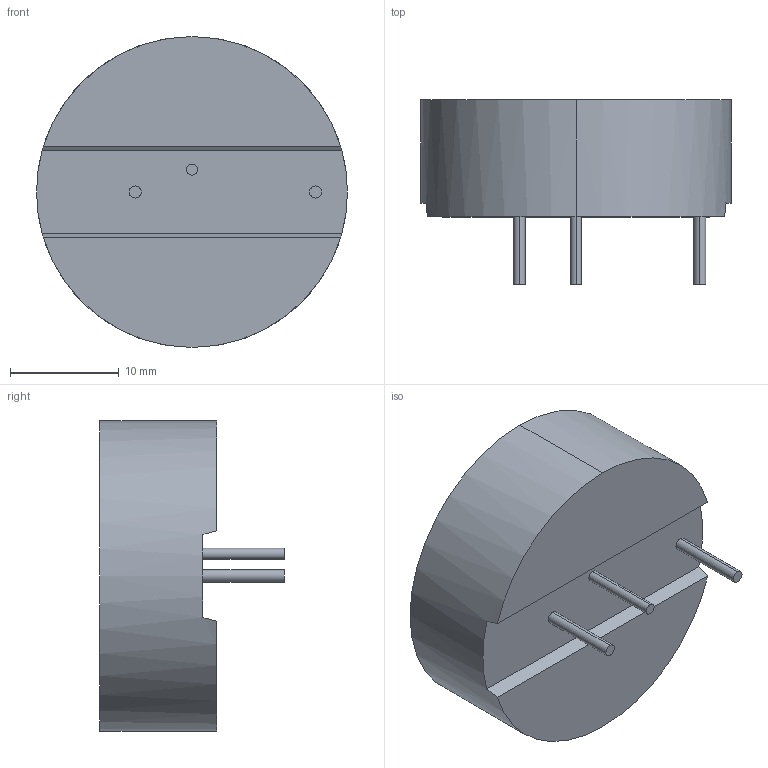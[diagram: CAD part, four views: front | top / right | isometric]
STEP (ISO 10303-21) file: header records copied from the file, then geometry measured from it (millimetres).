
FILE_DESCRIPTION (( 'STEP AP214' ), '1' );
FILE_NAME ('IHTH_IHTH1125KZ 68uH.step', '2014-06-30T14:02:12', ( '' ), ( '' ), 'SwSTEP 2.0', 'SolidWorks 2014', '' );
FILE_SCHEMA (( 'AUTOMOTIVE_DESIGN' ));
Length unit declared in the file: inch
Products named in the file (1): IHTH_IHTH1125KZ  68uH
Bounding box: 28.57 x 16.94 x 28.57 mm (x, y, z)
Volume: 6625.6 mm3; surface area: 2357.3 mm2
Topology: 1 solids, 1 shells, 42 faces, 96 edges, 64 vertices
Faces by surface type: plane 34, cylinder 8
Entity records: 1350 total; most frequent: CARTESIAN_POINT 215, DIRECTION 198, ORIENTED_EDGE 192, EDGE_CURVE 96, LINE 72, VECTOR 72, VERTEX_POINT 64, AXIS2_PLACEMENT_3D 63
